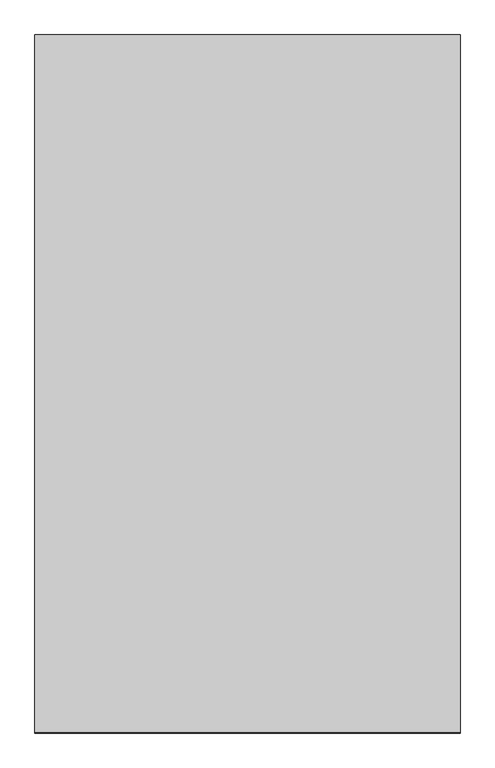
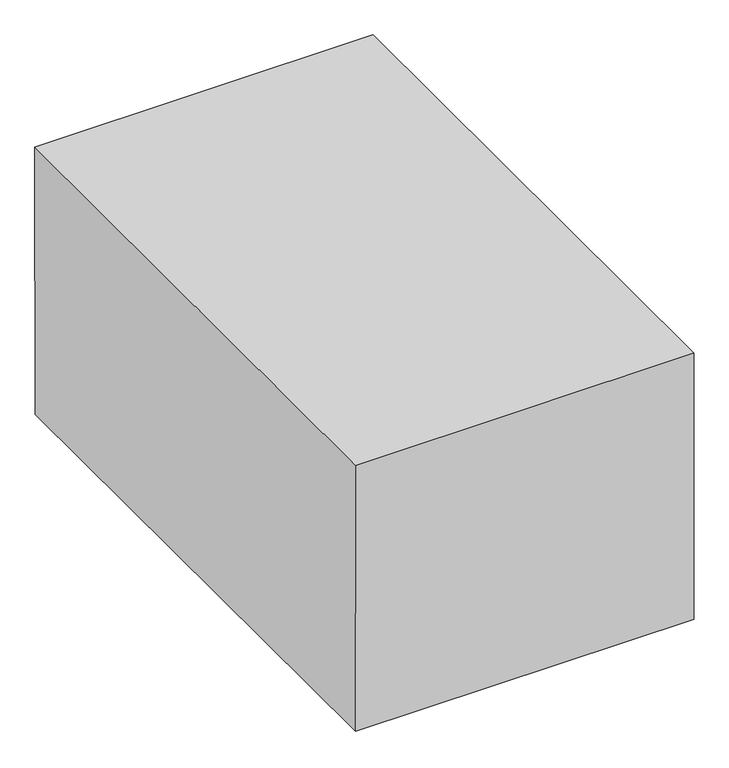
"""IFC4 building model written with IfcOpenShell, lengths in millimetres: proxy geometry, Excavation FamilySP : Excavation FamilySP."""

from ifc_helpers import new_model, si_unit, frame, origin, place, context, project, spatial, polyline, outline, extrude, source, transform, mapped, element, save


def generic_models_ed149499(model_context):
    return source(origin(), model_context, "Body", "SweptSolid", [
        extrude(outline(polyline([(5.6213592, 2543.3254849), (0.0, 0.0), (-4999.9877947, 11.0511719), (-4994.3906292, 2543.4304919), (5.6213592, 2543.3254849)])), frame((-1524.0, 0.0, 0.0), z_axis=(1.0, 0.0, 0.0), x_axis=(0.0, 1.0, 0.0)), (0.0, 0.0, 1.0), 3048.0),
    ])


if __name__ == "__main__":
    model = new_model("IFC4")
    model_context = context("Model", 3, world=origin())
    ifc_project = project(units=[si_unit("LENGTHUNIT", "METRE", prefix="MILLI")], contexts=[model_context])
    site = spatial("IfcSite", under=ifc_project)
    building = spatial("IfcBuilding", under=site)
    placement = place(None, origin())
    generic_models_shape = generic_models_ed149499(model_context)
    element("IfcBuildingElementProxy", 1, Name="Excavation FamilySP : Excavation FamilySP", ObjectType="Excavation FamilySP : Excavation FamilySP", at=placement, inside=building, context=model_context, shape_type="MappedRepresentation", body=[
        mapped(generic_models_shape, transform((0.0, 0.0, 0.0), x_axis=(1.0, 0.0, 0.0), y_axis=(0.0, 1.0, 0.0), z_axis=(0.0, 0.0, 1.0))),
    ])
    save(model, "model.ifc")
